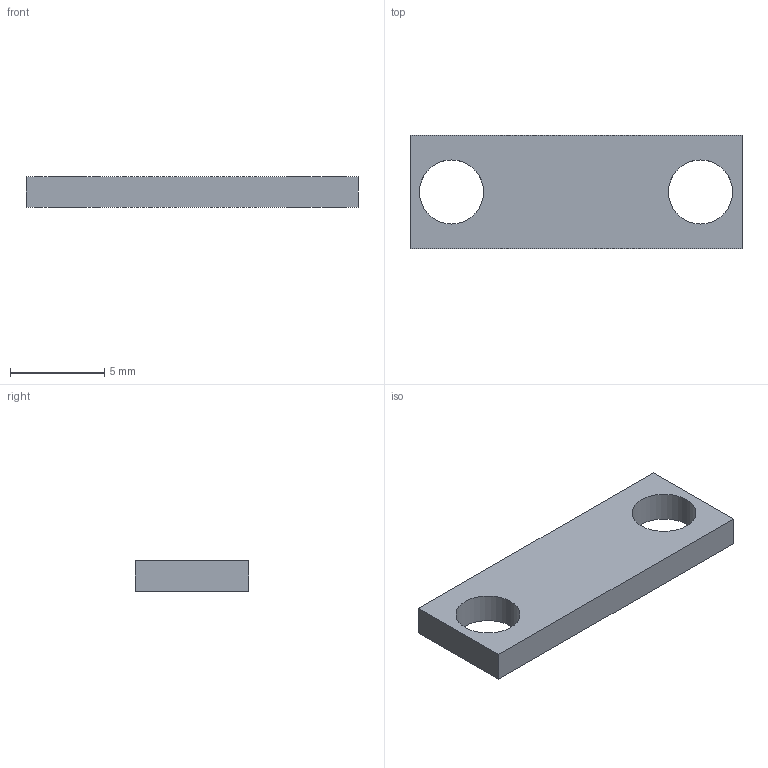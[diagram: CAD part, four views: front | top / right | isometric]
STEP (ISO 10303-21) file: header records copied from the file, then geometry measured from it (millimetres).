
FILE_DESCRIPTION(('FreeCAD Model'),'2;1');
FILE_NAME('Open CASCADE Shape Model','2026-11-20T08:25:38',('FreeCAD'),( 'FreeCAD'),'Open CASCADE STEP processor 7.8','FreeCAD','Unknown');
FILE_SCHEMA(('AUTOMOTIVE_DESIGN { 1 0 10303 214 1 1 1 1 }'));
Length unit declared in the file: millimetre
Products named in the file (1): Open CASCADE STEP translator 7.8 45
Bounding box: 17.6 x 6 x 1.6 mm (x, y, z)
Volume: 139.9 mm3; surface area: 284.6 mm2
Topology: 1 solids, 1 shells, 8 faces, 18 edges, 12 vertices
Faces by surface type: plane 6, cylinder 2
Full cylindrical faces by diameter (mm): 3.4 x2
Entity records: 244 total; most frequent: DIRECTION 40, CARTESIAN_POINT 39, ORIENTED_EDGE 36, EDGE_CURVE 18, LINE 14, VECTOR 14, AXIS2_PLACEMENT_3D 13, FACE_BOUND 12
